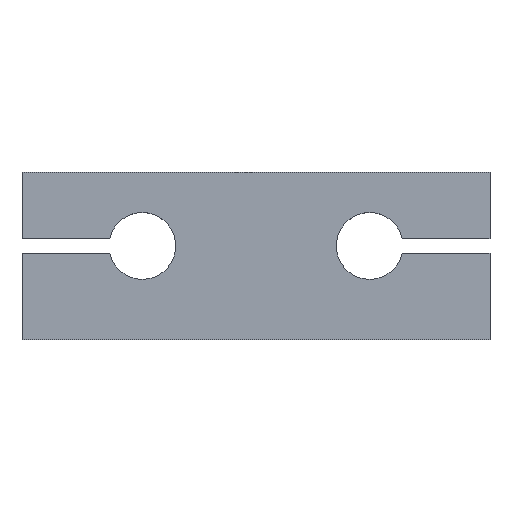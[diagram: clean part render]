
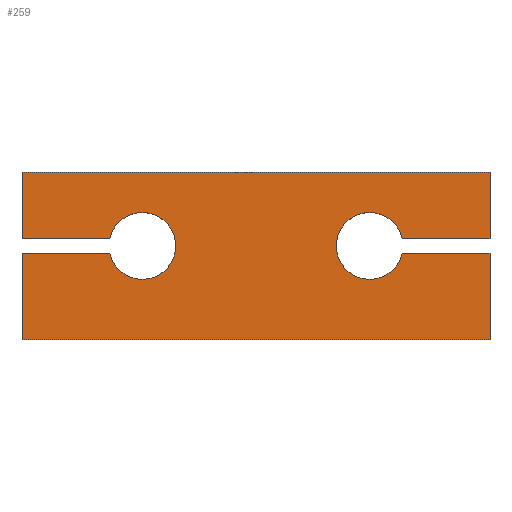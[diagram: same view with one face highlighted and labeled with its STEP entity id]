
A CAD part, top view. The second image highlights one B-rep face of the part: STEP entity #259.
In plain terms, the highlighted planar face has unit normal (0, 0, 1).
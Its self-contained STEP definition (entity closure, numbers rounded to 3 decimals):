
#4 = CARTESIAN_POINT ( 'NONE',  ( -35., 0.425, 6. ) ) ;
#54 = LINE ( 'NONE', #843, #546 ) ;
#59 = EDGE_CURVE ( 'NONE', #737, #387, #1096, .T. ) ;
#96 = VECTOR ( 'NONE', #498, 1000. ) ;
#97 = DIRECTION ( 'NONE',  ( 1., 0., 0. ) ) ;
#105 = ORIENTED_EDGE ( 'NONE', *, *, #283, .T. ) ;
#110 = ORIENTED_EDGE ( 'NONE', *, *, #643, .F. ) ;
#143 = ORIENTED_EDGE ( 'NONE', *, *, #175, .T. ) ;
#147 = DIRECTION ( 'NONE',  ( 1., 0., 0. ) ) ;
#148 = DIRECTION ( 'NONE',  ( 0., 0., 1. ) ) ;
#165 = DIRECTION ( 'NONE',  ( 0., 1., 0. ) ) ;
#166 = LINE ( 'NONE', #185, #209 ) ;
#175 = EDGE_CURVE ( 'NONE', #959, #803, #54, .T. ) ;
#179 = FACE_OUTER_BOUND ( 'NONE', #534, .T. ) ;
#185 = CARTESIAN_POINT ( 'NONE',  ( 35., 12.5, 6. ) ) ;
#187 = VERTEX_POINT ( 'NONE', #652 ) ;
#207 = VERTEX_POINT ( 'NONE', #1114 ) ;
#209 = VECTOR ( 'NONE', #255, 1000. ) ;
#216 = CARTESIAN_POINT ( 'NONE',  ( -35., -12.5, 6. ) ) ;
#223 = ORIENTED_EDGE ( 'NONE', *, *, #698, .F. ) ;
#225 = VECTOR ( 'NONE', #165, 1000. ) ;
#232 = ORIENTED_EDGE ( 'NONE', *, *, #847, .F. ) ;
#237 = CARTESIAN_POINT ( 'NONE',  ( -35., 2.575, 6. ) ) ;
#250 = LINE ( 'NONE', #1102, #460 ) ;
#252 = ORIENTED_EDGE ( 'NONE', *, *, #812, .F. ) ;
#255 = DIRECTION ( 'NONE',  ( 0., 1., 0. ) ) ;
#259 = ADVANCED_FACE ( 'NONE', ( #179 ), #865, .T. ) ;
#263 = DIRECTION ( 'NONE',  ( 0., 0., 1. ) ) ;
#269 = VERTEX_POINT ( 'NONE', #518 ) ;
#277 = VECTOR ( 'NONE', #881, 1000. ) ;
#283 = EDGE_CURVE ( 'NONE', #737, #959, #438, .T. ) ;
#288 = VERTEX_POINT ( 'NONE', #431 ) ;
#296 = AXIS2_PLACEMENT_3D ( 'NONE', #575, #148, #736 ) ;
#321 = VERTEX_POINT ( 'NONE', #512 ) ;
#342 = CARTESIAN_POINT ( 'NONE',  ( -35., 12.5, 6. ) ) ;
#387 = VERTEX_POINT ( 'NONE', #529 ) ;
#400 = ORIENTED_EDGE ( 'NONE', *, *, #689, .F. ) ;
#413 = CARTESIAN_POINT ( 'NONE',  ( 0., 0., 6. ) ) ;
#431 = CARTESIAN_POINT ( 'NONE',  ( -21.883, 0.425, 6. ) ) ;
#434 = ORIENTED_EDGE ( 'NONE', *, *, #1064, .T. ) ;
#438 = LINE ( 'NONE', #667, #225 ) ;
#447 = DIRECTION ( 'NONE',  ( 1., 0., 0. ) ) ;
#450 = CARTESIAN_POINT ( 'NONE',  ( -35., 0.425, 6. ) ) ;
#451 = CARTESIAN_POINT ( 'NONE',  ( -35., 12.5, 6. ) ) ;
#456 = VECTOR ( 'NONE', #580, 1000. ) ;
#460 = VECTOR ( 'NONE', #147, 1000. ) ;
#483 = CARTESIAN_POINT ( 'NONE',  ( -35., 2.575, 6. ) ) ;
#493 = CARTESIAN_POINT ( 'NONE',  ( 16., 0.425, 6. ) ) ;
#498 = DIRECTION ( 'NONE',  ( -1., 0., 0. ) ) ;
#512 = CARTESIAN_POINT ( 'NONE',  ( 35., 0.425, 6. ) ) ;
#518 = CARTESIAN_POINT ( 'NONE',  ( -12., 1.5, 6. ) ) ;
#529 = CARTESIAN_POINT ( 'NONE',  ( 21.883, 2.575, 6. ) ) ;
#534 = EDGE_LOOP ( 'NONE', ( #400, #252, #232, #1061, #1094, #434, #1010, #223, #110, #697, #105, #143, #726 ) ) ;
#546 = VECTOR ( 'NONE', #1081, 1000. ) ;
#575 = CARTESIAN_POINT ( 'NONE',  ( 17., 1.5, 6. ) ) ;
#580 = DIRECTION ( 'NONE',  ( -1., 0., 0. ) ) ;
#589 = VERTEX_POINT ( 'NONE', #483 ) ;
#599 = AXIS2_PLACEMENT_3D ( 'NONE', #886, #968, #447 ) ;
#626 = CARTESIAN_POINT ( 'NONE',  ( 35., -12.5, 6. ) ) ;
#632 = CARTESIAN_POINT ( 'NONE',  ( 35., 12.5, 6. ) ) ;
#643 = EDGE_CURVE ( 'NONE', #387, #187, #892, .T. ) ;
#652 = CARTESIAN_POINT ( 'NONE',  ( 21.883, 0.425, 6. ) ) ;
#659 = CARTESIAN_POINT ( 'NONE',  ( 16., 2.575, 6. ) ) ;
#667 = CARTESIAN_POINT ( 'NONE',  ( 35., 12.5, 6. ) ) ;
#671 = VECTOR ( 'NONE', #1078, 1000. ) ;
#674 = EDGE_CURVE ( 'NONE', #803, #589, #937, .T. ) ;
#683 = DIRECTION ( 'NONE',  ( 1., 0., 0. ) ) ;
#689 = EDGE_CURVE ( 'NONE', #207, #589, #1014, .T. ) ;
#696 = CARTESIAN_POINT ( 'NONE',  ( 35., 2.575, 6. ) ) ;
#697 = ORIENTED_EDGE ( 'NONE', *, *, #59, .F. ) ;
#698 = EDGE_CURVE ( 'NONE', #187, #321, #1017, .T. ) ;
#710 = CIRCLE ( 'NONE', #965, 5. ) ;
#718 = LINE ( 'NONE', #451, #933 ) ;
#726 = ORIENTED_EDGE ( 'NONE', *, *, #674, .T. ) ;
#736 = DIRECTION ( 'NONE',  ( 1., 0., 0. ) ) ;
#737 = VERTEX_POINT ( 'NONE', #696 ) ;
#758 = DIRECTION ( 'NONE',  ( 1., 0., 0. ) ) ;
#764 = DIRECTION ( 'NONE',  ( 0., 0., 1. ) ) ;
#803 = VERTEX_POINT ( 'NONE', #342 ) ;
#804 = EDGE_CURVE ( 'NONE', #1001, #321, #166, .T. ) ;
#810 = VERTEX_POINT ( 'NONE', #4 ) ;
#812 = EDGE_CURVE ( 'NONE', #269, #207, #710, .T. ) ;
#838 = CARTESIAN_POINT ( 'NONE',  ( -35., 12.5, 6. ) ) ;
#843 = CARTESIAN_POINT ( 'NONE',  ( -35., 12.5, 6. ) ) ;
#847 = EDGE_CURVE ( 'NONE', #288, #269, #1089, .T. ) ;
#864 = CARTESIAN_POINT ( 'NONE',  ( -17., 1.5, 6. ) ) ;
#865 = PLANE ( 'NONE',  #912 ) ;
#869 = EDGE_CURVE ( 'NONE', #810, #288, #973, .T. ) ;
#881 = DIRECTION ( 'NONE',  ( 1., 0., 0. ) ) ;
#886 = CARTESIAN_POINT ( 'NONE',  ( -17., 1.5, 6. ) ) ;
#892 = CIRCLE ( 'NONE', #296, 5. ) ;
#912 = AXIS2_PLACEMENT_3D ( 'NONE', #413, #764, #683 ) ;
#918 = EDGE_CURVE ( 'NONE', #810, #958, #718, .T. ) ;
#933 = VECTOR ( 'NONE', #1071, 1000. ) ;
#937 = LINE ( 'NONE', #838, #671 ) ;
#958 = VERTEX_POINT ( 'NONE', #216 ) ;
#959 = VERTEX_POINT ( 'NONE', #632 ) ;
#965 = AXIS2_PLACEMENT_3D ( 'NONE', #864, #263, #97 ) ;
#968 = DIRECTION ( 'NONE',  ( 0., 0., 1. ) ) ;
#973 = LINE ( 'NONE', #450, #277 ) ;
#1001 = VERTEX_POINT ( 'NONE', #626 ) ;
#1010 = ORIENTED_EDGE ( 'NONE', *, *, #804, .T. ) ;
#1014 = LINE ( 'NONE', #237, #456 ) ;
#1017 = LINE ( 'NONE', #493, #1023 ) ;
#1023 = VECTOR ( 'NONE', #758, 1000. ) ;
#1061 = ORIENTED_EDGE ( 'NONE', *, *, #869, .F. ) ;
#1064 = EDGE_CURVE ( 'NONE', #958, #1001, #250, .T. ) ;
#1071 = DIRECTION ( 'NONE',  ( 0., -1., 0. ) ) ;
#1078 = DIRECTION ( 'NONE',  ( 0., -1., 0. ) ) ;
#1081 = DIRECTION ( 'NONE',  ( -1., 0., 0. ) ) ;
#1089 = CIRCLE ( 'NONE', #599, 5. ) ;
#1094 = ORIENTED_EDGE ( 'NONE', *, *, #918, .T. ) ;
#1096 = LINE ( 'NONE', #659, #96 ) ;
#1102 = CARTESIAN_POINT ( 'NONE',  ( -35., -12.5, 6. ) ) ;
#1114 = CARTESIAN_POINT ( 'NONE',  ( -21.883, 2.575, 6. ) ) ;
